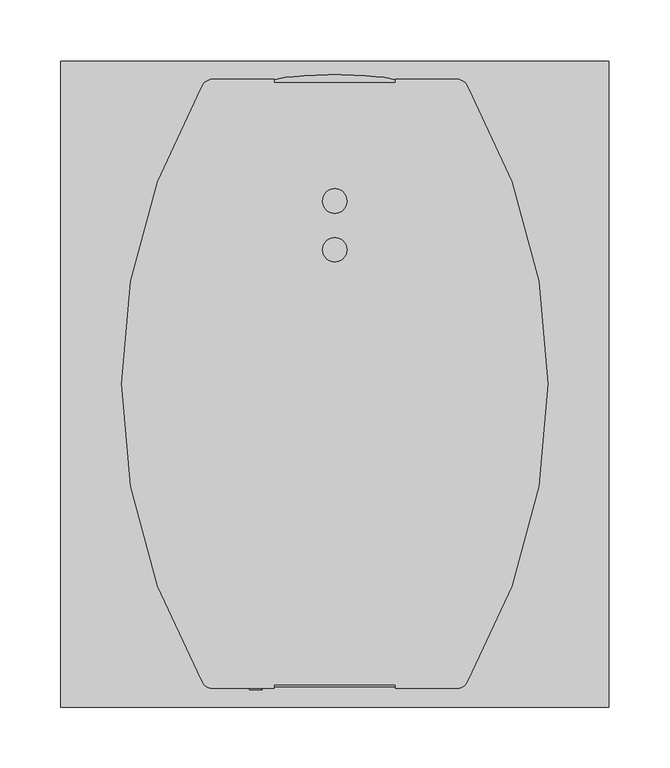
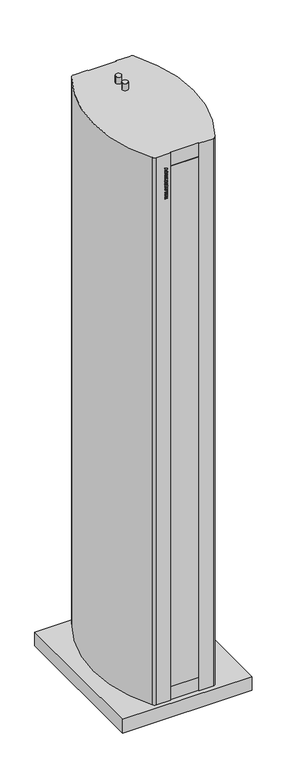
"""IFC4 building model written with IfcOpenShell, lengths in millimetres: proxy geometry, ИЗТТ_Завеса дизайнерская_Водяная : KVC-S20W35-31."""

from ifc_helpers import new_model, si_unit, point, frame, origin, origin_with_axes, place, context, project, spatial, polyline, circle_curve, ellipse_curve, trimmed, outline, extrude, faceted_brep, source, transform, mapped, element, save
from ifc_brep_helpers import plane_surface, cylinder_surface, extruded_surface, advanced_brep


def mechanical_equipment_ca8eee42(model_context):
    return source(origin(), model_context, "Body", "SolidModel", [
        extrude(outline(polyline([(1900.0784314, -70.0), (1900.0784314, -60.0), (1903.2156863, -60.0), (1903.2156863, -61.7647059), (1904.9865196, -63.7745098), (1906.8186275, -60.0), (1910.6666667, -60.0), (1907.192402, -66.2775735), (1910.4705882, -70.0), (1906.1997549, -70.0), (1903.2156863, -66.2224265), (1903.2156863, -70.0), (1900.0784314, -70.0)])), frame((0.0, -251.0, 0.0), z_axis=(0.0, 1.0, 0.0), x_axis=(0.0, 0.0, 1.0)), (0.0, 0.0, 1.0), 1.0),
        extrude(outline(polyline([(1917.6642157, -61.5686275), (1918.1176471, -60.0), (1921.4509804, -60.0), (1918.0778186, -70.0), (1914.0398284, -70.0), (1910.6666667, -60.0), (1914.0, -60.0), (1914.4319853, -61.5686275), (1917.6642157, -61.5686275)]), holes=[polyline([(1917.0698529, -63.9215686), (1915.0814951, -63.9215686), (1916.0588235, -67.4540441), (1917.0698529, -63.9215686)])]), frame((0.0, -251.0, 0.0), z_axis=(0.0, 1.0, 0.0), x_axis=(0.0, 0.0, 1.0)), (0.0, 0.0, 1.0), 1.0),
        extrude(outline(polyline([(1922.4313725, -70.0), (1922.4313725, -60.0), (1930.2745098, -60.0), (1930.2745098, -62.3529412), (1925.5686275, -62.3529412), (1925.5686275, -70.0), (1922.4313725, -70.0)])), frame((0.0, -251.0, 0.0), z_axis=(0.0, 1.0, 0.0), x_axis=(0.0, 0.0, 1.0)), (0.0, 0.0, 1.0), 1.0),
        extrude(outline(polyline([(1937.6642157, -61.5686275), (1938.1176471, -60.0), (1941.4509804, -60.0), (1938.0778186, -70.0), (1934.0398284, -70.0), (1930.6666667, -60.0), (1934.0, -60.0), (1934.4319853, -61.5686275), (1937.6642157, -61.5686275)]), holes=[polyline([(1937.0698529, -63.9215686), (1935.0814951, -63.9215686), (1936.0588235, -67.4540441), (1937.0698529, -63.9215686)])]), frame((0.0, -251.0, 0.0), z_axis=(0.0, 1.0, 0.0), x_axis=(0.0, 0.0, 1.0)), (0.0, 0.0, 1.0), 1.0),
        extrude(outline(polyline([(1941.8431373, -63.3394608), (1942.9491422, -60.8026961), (1946.4601716, -59.8039216), (1948.8560049, -60.2297794), (1950.3342525, -61.4813113), (1950.8627451, -63.28125), (1950.4675245, -64.7870711), (1949.2022059, -65.9129902), (1946.3223039, -66.8106618), (1946.1905637, -68.4313725), (1946.9641544, -68.1050858), (1947.3333333, -67.0588235), (1950.4705882, -67.2395833), (1949.2925858, -69.4883578), (1946.4172794, -70.1960784), (1943.9969363, -69.8039216), (1942.6749387, -68.7285539), (1942.2352941, -67.276348), (1943.1023284, -65.3492647), (1945.9761029, -64.1237745), (1947.7254902, -62.8186275), (1947.4114583, -62.0818015), (1946.5183824, -61.7647059), (1945.3204657, -62.3958333), (1944.9803922, -63.5294118), (1941.8431373, -63.3394608)])), frame((0.0, -251.0, 0.0), z_axis=(0.0, 1.0, 0.0), x_axis=(0.0, 0.0, 1.0)), (0.0, 0.0, 1.0), 1.0),
        extrude(outline(polyline([(1952.4313725, -70.0), (1952.4313725, -60.0), (1955.5686275, -60.0), (1955.5686275, -64.1176471), (1958.9019608, -64.1176471), (1958.9019608, -60.0), (1962.0392157, -60.0), (1962.0392157, -70.0), (1958.9019608, -70.0), (1958.9019608, -66.4705882), (1955.5686275, -66.4705882), (1955.5686275, -70.0), (1952.4313725, -70.0)])), frame((0.0, -251.0, 0.0), z_axis=(0.0, 1.0, 0.0), x_axis=(0.0, 0.0, 1.0)), (0.0, 0.0, 1.0), 1.0),
        extrude(outline(polyline([(1964.0, -70.0), (1964.0, -60.0), (1966.9411765, -60.0), (1966.9411765, -65.4901961), (1970.6666667, -60.0), (1973.6078431, -60.0), (1973.6078431, -70.0), (1970.6666667, -70.0), (1970.6666667, -64.4730392), (1966.9197304, -70.0), (1964.0, -70.0)])), frame((0.0, -251.0, 0.0), z_axis=(0.0, 1.0, 0.0), x_axis=(0.0, 0.0, 1.0)), (0.0, 0.0, 1.0), 1.0),
        extrude(outline(polyline([(-60.0, -251.0), (-70.0, -251.0), (-70.0, -250.0), (-60.0, -250.0), (-60.0, -251.0)])), frame((0.0, 0.0, 1975.7647059), z_axis=(0.0, 0.0, 1.0), x_axis=(1.0, 0.0, 0.0)), (0.0, 0.0, 1.0), 3.1372549),
        extrude(outline(polyline([(1981.0588235, -70.0), (1981.0588235, -60.0), (1984.1960784, -60.0), (1984.1960784, -61.7647059), (1985.9669118, -63.7745098), (1987.7990196, -60.0), (1991.6470588, -60.0), (1988.1727941, -66.2775735), (1991.4509804, -70.0), (1987.1801471, -70.0), (1984.1960784, -66.2224265), (1984.1960784, -70.0), (1981.0588235, -70.0)])), frame((0.0, -251.0, 0.0), z_axis=(0.0, 1.0, 0.0), x_axis=(0.0, 0.0, 1.0)), (0.0, 0.0, 1.0), 1.0),
        extrude(outline(polyline([(1992.2352941, -64.9938725), (1992.9261642, -62.0603554), (1994.7291667, -60.346201), (1997.5386029, -59.8039216), (2000.3250613, -60.4304534), (2002.036152, -62.1859681), (2002.627451, -65.0765931), (2001.2732843, -68.8495711), (1997.4129902, -70.1960784), (1993.6032475, -68.8250613), (1992.2352941, -64.9938725)]), holes=[polyline([(1995.372549, -64.9938725), (1995.9301471, -67.1813725), (1997.4068627, -67.8431373), (1998.9295343, -67.1920956), (1999.4901961, -65.1286765), (1998.9525123, -62.8048407), (1997.4344363, -62.1568627), (1995.9270833, -62.8186275), (1995.372549, -64.9938725)])]), frame((0.0, -251.0, 0.0), z_axis=(0.0, 1.0, 0.0), x_axis=(0.0, 0.0, 1.0)), (0.0, 0.0, 1.0), 1.0),
        extrude(outline(polyline([(2003.4117647, -70.0), (2007.1280637, -60.0), (2010.4583333, -60.0), (2014.1960784, -70.0), (2010.8627451, -70.0), (2008.8039216, -62.8033088), (2006.7420343, -70.0), (2003.4117647, -70.0)])), frame((0.0, -251.0, 0.0), z_axis=(0.0, 1.0, 0.0), x_axis=(0.0, 0.0, 1.0)), (0.0, 0.0, 1.0), 1.0),
        extrude(outline(polyline([(225.0, 265.0), (225.0, -265.0), (-225.0, -265.0), (-225.0, 265.0), (225.0, 265.0)])), origin_with_axes(), (0.0, 0.0, 1.0), 50.0),
        advanced_brep(
        [(-50.0, 250.0, 2064.0), (-100.0, 250.0, 2064.0), (-109.6523684, 242.6137681, 2064.0), (-109.6523684, -242.6137681, 2064.0), (-100.0, -250.0, 2064.0), (-50.0, -250.0, 2064.0), (-50.0, -247.0, 2064.0), (50.0, -247.0, 2064.0), (50.0, -250.0, 2064.0), (100.0, -250.0, 2064.0), (109.6523684, -242.6137681, 2064.0), (109.6523684, 242.6137681, 2064.0), (100.0, 250.0, 2064.0), (50.0, 250.0, 2064.0), (50.0, 247.0, 2064.0), (-50.0, 247.0, 2064.0), (10.0, 150.0, 2064.0), (-10.0, 150.0, 2064.0), (10.0, 110.0, 2064.0), (-10.0, 110.0, 2064.0), (-50.0, 250.0, 50.0), (-50.0, 247.0, 50.0), (50.0, 247.0, 50.0), (50.0, 250.0, 50.0), (100.0, 250.0, 50.0), (109.6523684, 242.6137681, 50.0), (109.6523684, -242.6137681, 50.0), (100.0, -250.0, 50.0), (50.0, -250.0, 50.0), (50.0, -247.0, 50.0), (-50.0, -247.0, 50.0), (-50.0, -250.0, 50.0), (-100.0, -250.0, 50.0), (-109.6523684, -242.6137681, 50.0), (-109.6523684, 242.6137681, 50.0), (-100.0, 250.0, 50.0), (-10.0, 150.0, 2089.0), (10.0, 150.0, 2089.0), (-10.0, 110.0, 2089.0), (10.0, 110.0, 2089.0)],
        [
            (0, 1),
            (1, 2, circle_curve(frame((-100.0, 240.0, 2064.0), z_axis=(0.0, 0.0, 1.0), x_axis=(1.0, 0.0, 0.0)), 10.0)),
            (2, 3, circle_curve(frame((308.0454594, 0.0, 2064.0), z_axis=(0.0, 0.0, 1.0), x_axis=(1.0, 0.0, 0.0)), 483.0454594)),
            (3, 4, circle_curve(frame((-100.0, -240.0, 2064.0), z_axis=(0.0, 0.0, 1.0), x_axis=(1.0, 0.0, 0.0)), 10.0)),
            (4, 5),
            (5, 6),
            (6, 7),
            (7, 8),
            (8, 9),
            (9, 10, circle_curve(frame((100.0, -240.0, 2064.0), z_axis=(0.0, 0.0, 1.0), x_axis=(1.0, 0.0, 0.0)), 10.0)),
            (10, 11, circle_curve(frame((-308.0454594, 0.0, 2064.0), z_axis=(0.0, 0.0, 1.0), x_axis=(1.0, 0.0, 0.0)), 483.0454594)),
            (11, 12, circle_curve(frame((100.0, 240.0, 2064.0), z_axis=(0.0, 0.0, 1.0), x_axis=(1.0, 0.0, 0.0)), 10.0)),
            (12, 13),
            (13, 14),
            (14, 15),
            (15, 0),
            (16, 17, circle_curve(frame((0.0, 150.0, 2064.0), z_axis=(0.0, 0.0, -1.0), x_axis=(1.0, 0.0, 0.0)), 10.0)),
            (17, 16, circle_curve(frame((0.0, 150.0, 2064.0), z_axis=(0.0, 0.0, -1.0), x_axis=(1.0, 0.0, 0.0)), 10.0)),
            (18, 19, circle_curve(frame((0.0, 110.0, 2064.0), z_axis=(0.0, 0.0, -1.0), x_axis=(1.0, 0.0, 0.0)), 10.0)),
            (19, 18, circle_curve(frame((0.0, 110.0, 2064.0), z_axis=(0.0, 0.0, -1.0), x_axis=(1.0, 0.0, 0.0)), 10.0)),
            (20, 21),
            (21, 22),
            (22, 23),
            (23, 24),
            (24, 25, circle_curve(frame((100.0, 240.0, 50.0), z_axis=(0.0, 0.0, -1.0), x_axis=(1.0, 0.0, 0.0)), 10.0)),
            (25, 26, circle_curve(frame((-308.0454594, 0.0, 50.0), z_axis=(0.0, 0.0, -1.0), x_axis=(1.0, 0.0, 0.0)), 483.0454594)),
            (26, 27, circle_curve(frame((100.0, -240.0, 50.0), z_axis=(0.0, 0.0, -1.0), x_axis=(1.0, 0.0, 0.0)), 10.0)),
            (27, 28),
            (28, 29),
            (29, 30),
            (30, 31),
            (31, 32),
            (32, 33, circle_curve(frame((-100.0, -240.0, 50.0), z_axis=(0.0, 0.0, -1.0), x_axis=(1.0, 0.0, 0.0)), 10.0)),
            (33, 34, circle_curve(frame((308.0454594, 0.0, 50.0), z_axis=(0.0, 0.0, -1.0), x_axis=(1.0, 0.0, 0.0)), 483.0454594)),
            (34, 35, circle_curve(frame((-100.0, 240.0, 50.0), z_axis=(0.0, 0.0, -1.0), x_axis=(1.0, 0.0, 0.0)), 10.0)),
            (35, 20),
            (0, 20),
            (35, 1),
            (34, 2),
            (33, 3),
            (32, 4),
            (8, 28),
            (27, 9),
            (31, 5),
            (30, 6),
            (29, 7),
            (12, 24),
            (23, 13),
            (22, 14),
            (21, 15),
            (36, 37, circle_curve(frame((0.0, 150.0, 2089.0), z_axis=(0.0, 0.0, 1.0), x_axis=(1.0, 0.0, 0.0)), 10.0)),
            (37, 36, circle_curve(frame((0.0, 150.0, 2089.0), z_axis=(0.0, 0.0, 1.0), x_axis=(1.0, 0.0, 0.0)), 10.0)),
            (38, 39, circle_curve(frame((0.0, 110.0, 2089.0), z_axis=(0.0, 0.0, 1.0), x_axis=(1.0, 0.0, 0.0)), 10.0)),
            (39, 38, circle_curve(frame((0.0, 110.0, 2089.0), z_axis=(0.0, 0.0, 1.0), x_axis=(1.0, 0.0, 0.0)), 10.0)),
            (36, 17),
            (16, 37),
            (38, 19),
            (18, 39),
            (26, 10),
            (25, 11),
        ],
        [
            plane_surface(frame((-93.2688019, 250.0, 2064.0), z_axis=(0.0, 0.0, 1.0), x_axis=(-1.0, 0.0, 0.0))),
            plane_surface(frame((-93.2688019, 250.0, 50.0), z_axis=(0.0, 0.0, -1.0), x_axis=(1.0, 0.0, 0.0))),
            plane_surface(frame((-50.0, 250.0, 2064.0), z_axis=(0.0, 1.0, 0.0), x_axis=(0.0, 0.0, -1.0))),
            cylinder_surface(frame((-100.0, 240.0, 50.0), z_axis=(0.0, 0.0, 1.0), x_axis=(1.0, 0.0, 0.0)), 10.0),
            cylinder_surface(frame((308.0454594, 0.0, 50.0), z_axis=(0.0, 0.0, 1.0), x_axis=(1.0, 0.0, 0.0)), 483.0454594),
            cylinder_surface(frame((-100.0, -240.0, 50.0), z_axis=(0.0, 0.0, 1.0), x_axis=(1.0, 0.0, 0.0)), 10.0),
            plane_surface(frame((50.0, -250.0, 2064.0), z_axis=(0.0, -1.0, 0.0), x_axis=(0.0, 0.0, -1.0))),
            plane_surface(frame((-100.0, -250.0, 2064.0), z_axis=(0.0, -1.0, 0.0), x_axis=(0.0, 0.0, -1.0))),
            plane_surface(frame((-50.0, -250.0, 2064.0), z_axis=(1.0, 0.0, 0.0), x_axis=(0.0, 0.0, -1.0))),
            plane_surface(frame((-50.0, -247.0, 2064.0), z_axis=(0.0, -1.0, 0.0), x_axis=(0.0, 0.0, -1.0))),
            plane_surface(frame((50.0, -247.0, 2064.0), z_axis=(-1.0, 0.0, 0.0), x_axis=(0.0, 0.0, -1.0))),
            plane_surface(frame((100.0, 250.0, 2064.0), z_axis=(0.0, 1.0, 0.0), x_axis=(0.0, 0.0, -1.0))),
            plane_surface(frame((50.0, 250.0, 2064.0), z_axis=(-1.0, 0.0, 0.0), x_axis=(0.0, 0.0, -1.0))),
            plane_surface(frame((50.0, 247.0, 2064.0), z_axis=(0.0, 1.0, 0.0), x_axis=(0.0, 0.0, -1.0))),
            plane_surface(frame((-50.0, 247.0, 2064.0), z_axis=(1.0, 0.0, 0.0), x_axis=(0.0, 0.0, -1.0))),
            plane_surface(frame((10.0, 150.0, 2089.0), z_axis=(0.0, 0.0, 1.0), x_axis=(0.0, 1.0, 0.0))),
            cylinder_surface(frame((0.0, 150.0, 2064.0), z_axis=(0.0, 0.0, 1.0), x_axis=(1.0, 0.0, 0.0)), 10.0),
            cylinder_surface(frame((0.0, 110.0, 0.0), z_axis=(0.0, 0.0, 1.0), x_axis=(1.0, 0.0, 0.0)), 10.0),
            cylinder_surface(frame((100.0, -240.0, 50.0), z_axis=(0.0, 0.0, 1.0), x_axis=(1.0, 0.0, 0.0)), 10.0),
            cylinder_surface(frame((-308.0454594, 0.0, 50.0), z_axis=(0.0, 0.0, 1.0), x_axis=(1.0, 0.0, 0.0)), 483.0454594),
            cylinder_surface(frame((100.0, 240.0, 50.0), z_axis=(0.0, 0.0, 1.0), x_axis=(1.0, 0.0, 0.0)), 10.0),
        ],
        [
            (0, [[1, 2, 3, 4, 5, 6, 7, 8, 9, 10, 11, 12, 13, 14, 15, 16], [17, 18], [19, 20]]),
            (1, [[21, 22, 23, 24, 25, 26, 27, 28, 29, 30, 31, 32, 33, 34, 35, 36]]),
            (2, [[-1, 37, -36, 38]]),
            (3, [[-2, -38, -35, 39]]),
            (4, [[-3, -39, -34, 40]]),
            (5, [[-4, -40, -33, 41]]),
            (6, [[-9, 42, -28, 43]]),
            (7, [[-5, -41, -32, 44]]),
            (8, [[-6, -44, -31, 45]]),
            (9, [[-7, -45, -30, 46]]),
            (10, [[-8, -46, -29, -42]]),
            (11, [[-13, 47, -24, 48]]),
            (12, [[-14, -48, -23, 49]]),
            (13, [[-15, -49, -22, 50]]),
            (14, [[-16, -50, -21, -37]]),
            (15, [[51, 52]]),
            (15, [[53, 54]]),
            (16, [[-51, 55, -17, 56]]),
            (16, [[-52, -56, -18, -55]]),
            (17, [[-53, 57, -19, 58]]),
            (17, [[-54, -58, -20, -57]]),
            (18, [[-10, -43, -27, 59]]),
            (19, [[-11, -59, -26, 60]]),
            (20, [[-12, -60, -25, -47]]),
        ],
    ),
        faceted_brep([(50.0, -247.0, 2014.0), (-50.0, -247.0, 2014.0), (-50.0, -248.5, 2014.0), (50.0, -248.5, 2014.0), (50.0, -247.0, 100.0), (50.0, -248.5, 100.0), (-50.0, -248.5, 100.0), (-50.0, -247.0, 100.0)], [[[0, 1, 2, 3]], [[4, 5, 6, 7]], [[1, 0, 4, 7]], [[2, 1, 7, 6]], [[3, 2, 6, 5]], [[0, 3, 5, 4]]]),
        advanced_brep(
        [(-50.0, 248.5, 2014.0), (-50.0, 247.0, 2014.0), (50.0, 247.0, 2014.0), (50.0, 248.5, 2014.0), (-50.0, 248.5, 100.0), (50.0, 248.5, 100.0), (50.0, 247.0, 100.0), (-50.0, 247.0, 100.0)],
        [
            (0, 1),
            (1, 2),
            (2, 3),
            (3, 0, ellipse_curve(frame((0.0, 248.5, 2014.0), z_axis=(0.0, 0.0, 1.0), x_axis=(-1.0, 0.0, 0.0)), 50.0, 5.0)),
            (4, 5, ellipse_curve(frame((0.0, 248.5, 100.0), z_axis=(0.0, 0.0, -1.0), x_axis=(-1.0, 0.0, 0.0)), 50.0, 5.0)),
            (5, 6),
            (6, 7),
            (7, 4),
            (0, 4),
            (7, 1),
            (6, 2),
            (5, 3),
        ],
        [
            plane_surface(frame((-50.0, -247.0, 2014.0), z_axis=(0.0, 0.0, 1.0), x_axis=(-1.0, 0.0, 0.0))),
            plane_surface(frame((-50.0, -247.0, 100.0), z_axis=(0.0, 0.0, -1.0), x_axis=(1.0, 0.0, 0.0))),
            plane_surface(frame((-50.0, 248.5, 2014.0), z_axis=(-1.0, 0.0, 0.0), x_axis=(0.0, 0.0, -1.0))),
            plane_surface(frame((-50.0, 247.0, 2014.0), z_axis=(0.0, -1.0, 0.0), x_axis=(0.0, 0.0, -1.0))),
            plane_surface(frame((50.0, 247.0, 2014.0), z_axis=(1.0, 0.0, 0.0), x_axis=(0.0, 0.0, -1.0))),
            extruded_surface(trimmed(ellipse_curve(frame((0.0, 248.5, -1914.0), z_axis=(0.0, 0.0, 1.0), x_axis=(-1.0, 0.0, 0.0)), 50.0, 5.0), [point((50.0, 248.5, -1914.0))], [point((-50.0, 248.5, -1914.0))], True, "CARTESIAN"), (0.0, 0.0, 1914.0), 1914.0),
        ],
        [
            (0, [[1, 2, 3, 4]]),
            (1, [[5, 6, 7, 8]]),
            (2, [[-1, 9, -8, 10]]),
            (3, [[-2, -10, -7, 11]]),
            (4, [[-3, -11, -6, 12]]),
            (5, [[-4, -12, -5, -9]]),
        ],
    ),
    ])


if __name__ == "__main__":
    model = new_model("IFC4")
    model_context = context("Model", 3, world=origin())
    ifc_project = project(units=[si_unit("LENGTHUNIT", "METRE", prefix="MILLI")], contexts=[model_context])
    site = spatial("IfcSite", under=ifc_project)
    building = spatial("IfcBuilding", under=site)
    placement = place(None, origin())
    mechanical_equipment_shape = mechanical_equipment_ca8eee42(model_context)
    element("IfcBuildingElementProxy", 1, Name="ИЗТТ_Завеса дизайнерская_Водяная : KVC-S20W35-31", ObjectType="ИЗТТ_Завеса дизайнерская_Водяная : KVC-S20W35-31", at=placement, inside=building, context=model_context, shape_type="MappedRepresentation", body=[
        mapped(mechanical_equipment_shape, transform((0.0, 0.0, 0.0), x_axis=(1.0, 0.0, 0.0), y_axis=(0.0, 1.0, 0.0), z_axis=(0.0, 0.0, 1.0))),
    ])
    save(model, "model.ifc")
